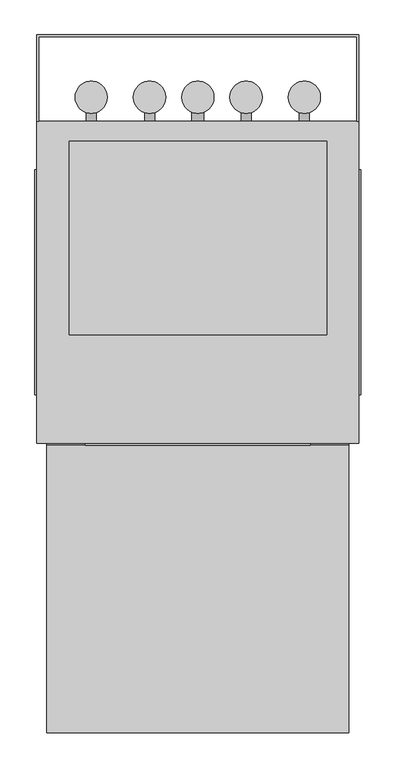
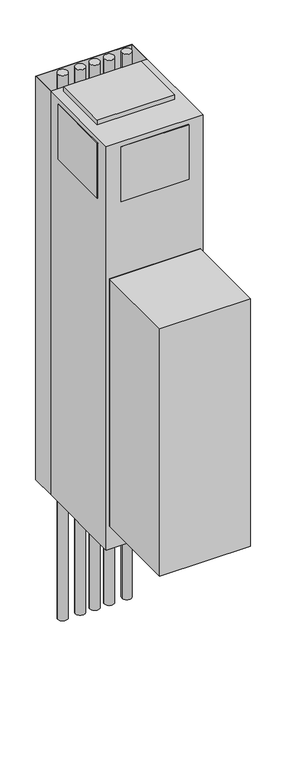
"""IFC4 building model written with IfcOpenShell, lengths in millimetres: proxy geometry, Exposed_Modular_Fan_Coil_Unit_-_42SHA_-_CARRIER_-_4-Pipe_-_WithRisers_2022 : Size 06 - 277v/60Hz/1Ph - 4/1 Coil."""

from ifc_helpers import new_model, si_unit, point, frame, frame_2d, origin, origin_with_axes, place, context, project, spatial, polyline, circle_curve, trimmed, segment, composite_curve, outline, extrude, source, transform, mapped, element, save


def mechanical_equipment_7b8174d6(model_context):
    return source(origin(), model_context, "Body", "SweptSolid", [
        extrude(outline(composite_curve([segment(trimmed(circle_curve(frame_2d((238.125, 282.575)), 25.4), [point((263.525, 282.575))], [point((212.725, 282.575))], False, "CARTESIAN"), True, "CONTINUOUS"), segment(trimmed(circle_curve(frame_2d((238.125, 282.575)), 25.4), [point((212.725, 282.575))], [point((263.525, 282.575))], False, "CARTESIAN"), True, "CONTINUOUS")], self_intersect=False)), frame((0.0, 0.0, -736.6), z_axis=(0.0, 0.0, 1.0), x_axis=(1.0, 0.0, 0.0)), (0.0, 0.0, 1.0), 3022.6),
        extrude(outline(composite_curve([segment(trimmed(circle_curve(frame_2d((330.2, 282.575)), 25.4), [point((355.6, 282.575))], [point((304.8, 282.575))], False, "CARTESIAN"), True, "CONTINUOUS"), segment(trimmed(circle_curve(frame_2d((330.2, 282.575)), 25.4), [point((304.8, 282.575))], [point((355.6, 282.575))], False, "CARTESIAN"), True, "CONTINUOUS")], self_intersect=False)), frame((0.0, 0.0, -736.6), z_axis=(0.0, 0.0, 1.0), x_axis=(1.0, 0.0, 0.0)), (0.0, 0.0, 1.0), 3022.6),
        extrude(outline(composite_curve([segment(trimmed(circle_curve(frame_2d((406.4, 282.575)), 25.4), [point((431.8, 282.575))], [point((381.0, 282.575))], False, "CARTESIAN"), True, "CONTINUOUS"), segment(trimmed(circle_curve(frame_2d((406.4, 282.575)), 25.4), [point((381.0, 282.575))], [point((431.8, 282.575))], False, "CARTESIAN"), True, "CONTINUOUS")], self_intersect=False)), frame((0.0, 0.0, -736.6), z_axis=(0.0, 0.0, 1.0), x_axis=(1.0, 0.0, 0.0)), (0.0, 0.0, 1.0), 3022.6),
        extrude(outline(composite_curve([segment(trimmed(circle_curve(frame_2d((482.6, 282.575)), 25.4), [point((508.0, 282.575))], [point((457.2, 282.575))], False, "CARTESIAN"), True, "CONTINUOUS"), segment(trimmed(circle_curve(frame_2d((482.6, 282.575)), 25.4), [point((457.2, 282.575))], [point((508.0, 282.575))], False, "CARTESIAN"), True, "CONTINUOUS")], self_intersect=False)), frame((0.0, 0.0, -736.6), z_axis=(0.0, 0.0, 1.0), x_axis=(1.0, 0.0, 0.0)), (0.0, 0.0, 1.0), 3022.6),
        extrude(outline(composite_curve([segment(trimmed(circle_curve(frame_2d((574.675, 282.575)), 25.4), [point((600.075, 282.575))], [point((549.275, 282.575))], False, "CARTESIAN"), True, "CONTINUOUS"), segment(trimmed(circle_curve(frame_2d((574.675, 282.575)), 25.4), [point((549.275, 282.575))], [point((600.075, 282.575))], False, "CARTESIAN"), True, "CONTINUOUS")], self_intersect=False)), frame((0.0, 0.0, -736.6), z_axis=(0.0, 0.0, 1.0), x_axis=(1.0, 0.0, 0.0)), (0.0, 0.0, 1.0), 3022.6),
        extrude(outline(polyline([(644.525, -266.7), (644.525, -720.725), (168.275, -720.725), (168.275, -266.7), (644.525, -266.7)])), frame((0.0, 0.0, 127.0), z_axis=(0.0, 0.0, 1.0), x_axis=(1.0, 0.0, 0.0)), (0.0, 0.0, 1.0), 1371.6),
        extrude(outline(polyline([(152.4, 381.0), (660.4, 381.0), (660.4, 244.475), (657.225, 244.475), (657.225, 377.825), (155.575, 377.825), (155.575, 244.475), (152.4, 244.475), (152.4, 381.0)])), origin_with_axes(), (0.0, 0.0, 1.0), 2235.2),
        extrude(outline(composite_curve([segment(trimmed(circle_curve(frame_2d((990.6, 482.6)), 7.9375), [point((990.6, 490.5375))], [point((990.6, 474.6625))], False, "CARTESIAN"), True, "CONTINUOUS"), segment(trimmed(circle_curve(frame_2d((990.6, 482.6)), 7.9375), [point((990.6, 474.6625))], [point((990.6, 490.5375))], False, "CARTESIAN"), True, "CONTINUOUS")], self_intersect=False)), frame((0.0, 244.475, 0.0), z_axis=(0.0, 1.0, 0.0), x_axis=(0.0, 0.0, 1.0)), (0.0, 0.0, 1.0), 25.4),
        extrude(outline(composite_curve([segment(trimmed(circle_curve(frame_2d((990.6, 330.2)), 7.9375), [point((990.6, 338.1375))], [point((990.6, 322.2625))], False, "CARTESIAN"), True, "CONTINUOUS"), segment(trimmed(circle_curve(frame_2d((990.6, 330.2)), 7.9375), [point((990.6, 322.2625))], [point((990.6, 338.1375))], False, "CARTESIAN"), True, "CONTINUOUS")], self_intersect=False)), frame((0.0, 244.475, 0.0), z_axis=(0.0, 1.0, 0.0), x_axis=(0.0, 0.0, 1.0)), (0.0, 0.0, 1.0), 25.4),
        extrude(outline(composite_curve([segment(trimmed(circle_curve(frame_2d((76.2, 406.4)), 9.525), [point((76.2, 415.925))], [point((76.2, 396.875))], False, "CARTESIAN"), True, "CONTINUOUS"), segment(trimmed(circle_curve(frame_2d((76.2, 406.4)), 9.525), [point((76.2, 396.875))], [point((76.2, 415.925))], False, "CARTESIAN"), True, "CONTINUOUS")], self_intersect=False)), frame((0.0, 244.475, 0.0), z_axis=(0.0, 1.0, 0.0), x_axis=(0.0, 0.0, 1.0)), (0.0, 0.0, 1.0), 25.4),
        extrude(outline(composite_curve([segment(trimmed(circle_curve(frame_2d((990.6, 574.675)), 7.9375), [point((990.6, 582.6125))], [point((990.6, 566.7375))], False, "CARTESIAN"), True, "CONTINUOUS"), segment(trimmed(circle_curve(frame_2d((990.6, 574.675)), 7.9375), [point((990.6, 566.7375))], [point((990.6, 582.6125))], False, "CARTESIAN"), True, "CONTINUOUS")], self_intersect=False)), frame((0.0, 244.475, 0.0), z_axis=(0.0, 1.0, 0.0), x_axis=(0.0, 0.0, 1.0)), (0.0, 0.0, 1.0), 25.4),
        extrude(outline(composite_curve([segment(trimmed(circle_curve(frame_2d((990.6, 238.125)), 7.9375), [point((990.6, 246.0625))], [point((990.6, 230.1875))], False, "CARTESIAN"), True, "CONTINUOUS"), segment(trimmed(circle_curve(frame_2d((990.6, 238.125)), 7.9375), [point((990.6, 230.1875))], [point((990.6, 246.0625))], False, "CARTESIAN"), True, "CONTINUOUS")], self_intersect=False)), frame((0.0, 244.475, 0.0), z_axis=(0.0, 1.0, 0.0), x_axis=(0.0, 0.0, 1.0)), (0.0, 0.0, 1.0), 25.4),
        extrude(outline(polyline([(644.525, -266.7), (168.275, -266.7), (168.275, -263.525), (644.525, -263.525), (644.525, -266.7)])), frame((0.0, 0.0, 127.0), z_axis=(0.0, 0.0, 1.0), x_axis=(1.0, 0.0, 0.0)), (0.0, 0.0, 1.0), 1371.6),
        extrude(outline(polyline([(663.575, 168.275), (663.575, -187.325), (660.4, -187.325), (660.4, 168.275), (663.575, 168.275)])), frame((0.0, 0.0, 1905.0), z_axis=(0.0, 0.0, 1.0), x_axis=(1.0, 0.0, 0.0)), (0.0, 0.0, 1.0), 304.8),
        extrude(outline(polyline([(149.225, -187.325), (149.225, 168.275), (152.4, 168.275), (152.4, -187.325), (149.225, -187.325)])), frame((0.0, 0.0, 1905.0), z_axis=(0.0, 0.0, 1.0), x_axis=(1.0, 0.0, 0.0)), (0.0, 0.0, 1.0), 304.8),
        extrude(outline(polyline([(584.2, -266.7), (228.6, -266.7), (228.6, -263.525), (584.2, -263.525), (584.2, -266.7)])), frame((0.0, 0.0, 1905.0), z_axis=(0.0, 0.0, 1.0), x_axis=(1.0, 0.0, 0.0)), (0.0, 0.0, 1.0), 304.8),
        extrude(outline(polyline([(609.6, 212.725), (609.6, -92.075), (203.2, -92.075), (203.2, 212.725), (609.6, 212.725)])), frame((0.0, 0.0, 2235.2), z_axis=(0.0, 0.0, 1.0), x_axis=(1.0, 0.0, 0.0)), (0.0, 0.0, 1.0), 25.4),
        extrude(outline(polyline([(660.4, 244.475), (660.4, -263.525), (152.4, -263.525), (152.4, 244.475), (660.4, 244.475)])), origin_with_axes(), (0.0, 0.0, 1.0), 2235.2),
    ])


if __name__ == "__main__":
    model = new_model("IFC4")
    model_context = context("Model", 3, world=origin())
    ifc_project = project(units=[si_unit("LENGTHUNIT", "METRE", prefix="MILLI")], contexts=[model_context])
    site = spatial("IfcSite", under=ifc_project)
    building = spatial("IfcBuilding", under=site)
    placement = place(None, origin())
    mechanical_equipment_shape = mechanical_equipment_7b8174d6(model_context)
    element("IfcBuildingElementProxy", 1, Name="Exposed_Modular_Fan_Coil_Unit_-_42SHA_-_CARRIER_-_4-Pipe_-_WithRisers_2022 : Size 06 - 277v/60Hz/1Ph - 4/1 Coil", ObjectType="Exposed_Modular_Fan_Coil_Unit_-_42SHA_-_CARRIER_-_4-Pipe_-_WithRisers_2022 : Size 06 - 277v/60Hz/1Ph - 4/1 Coil", at=placement, inside=building, context=model_context, shape_type="MappedRepresentation", body=[
        mapped(mechanical_equipment_shape, transform((0.0, 0.0, 0.0), x_axis=(1.0, 0.0, 0.0), y_axis=(0.0, 1.0, 0.0), z_axis=(0.0, 0.0, 1.0))),
    ])
    save(model, "model.ifc")
